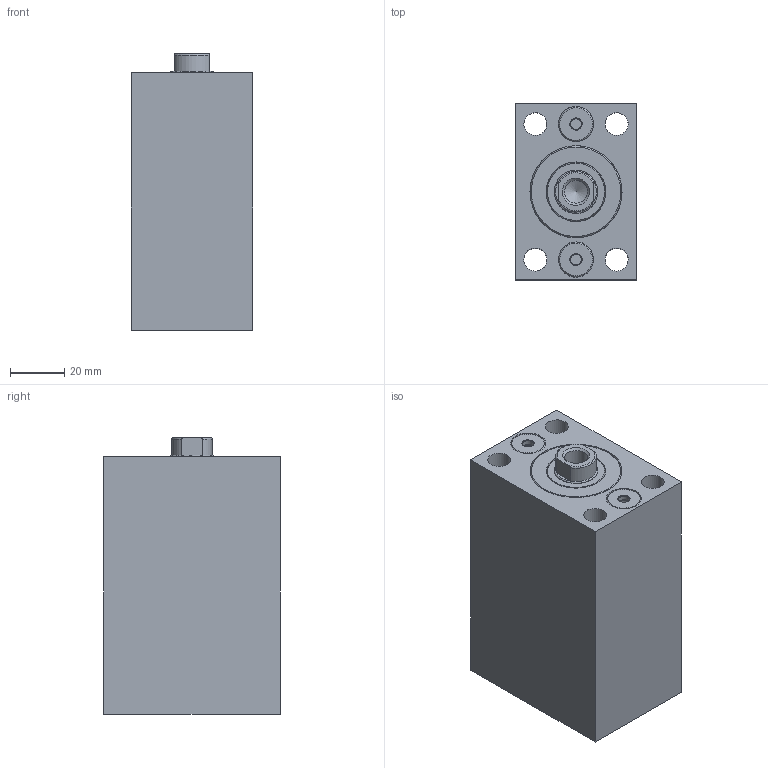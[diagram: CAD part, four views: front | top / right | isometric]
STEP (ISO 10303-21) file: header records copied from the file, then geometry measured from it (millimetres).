
FILE_DESCRIPTION( ( 'STEP AP203' ), '1' );
FILE_NAME( 'C:/Users/SAYKO.ltd/Desktop/SBZ100/07/SBZ100-25/SBZ100.25__FORM_07_STROKE_30__H2_44_POS_0_.stp', ' ', ( ' ' ), ( ' ' ), 'PSStep 15.0.47', 'PARTsolutions', ' ' );
FILE_SCHEMA( ( 'CONFIG_CONTROL_DESIGN' ) );
Length unit declared in the file: millimetre
Products named in the file (5): SBZ100.25  FORM=07 STROKE=30 (H2=44 POS=0); HI_SBZ10025  FORM=07 STROKE=30 H2=44 -C; HI_SBZ10025  FORM=07 STROKE=30-R; HI_SBZ100.25-C; HI_SBZ100.25-S
Assembly tree (4 placements, depth 2):
  SBZ100.25  FORM=07 STROKE=30 (H2=44 POS=0)
    HI_SBZ10025  FORM=07 STROKE=30 H2=44 -C
    HI_SBZ10025  FORM=07 STROKE=30-R
    HI_SBZ100.25-C
    HI_SBZ100.25-S
Bounding box: 45 x 65 x 102 mm (x, y, z)
Volume: 243305.7 mm3; surface area: 58907.8 mm2
Topology: 4 solids, 4 shells, 74 faces, 136 edges, 87 vertices
Faces by surface type: plane 33, cylinder 28, cone 10, torus 3
Full cylindrical faces by diameter (mm): 4 x4, 8.376 x1, 8.5 x4, 13 x2, 13.6 x4, 16 x4, 22 x1, 24 x2, 25 x2, 34 x2
Entity records: 3855 total; most frequent: CARTESIAN_POINT 2525, ORIENTED_EDGE 188, DIRECTION 178, EDGE_LOOP 140, FACE_OUTER_BOUND 101, EDGE_CURVE 94, VERTEX_POINT 83, AXIS2_PLACEMENT_3D 81
